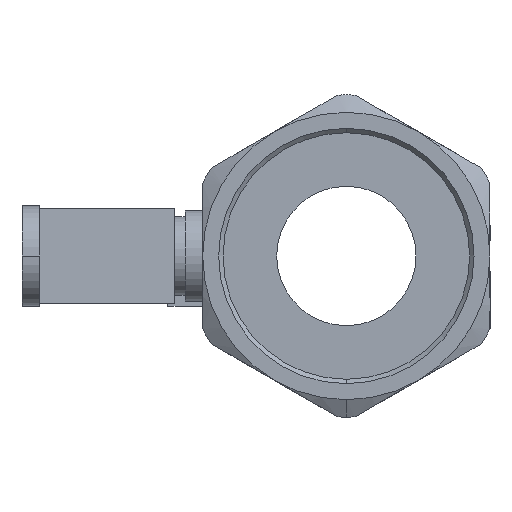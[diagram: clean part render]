
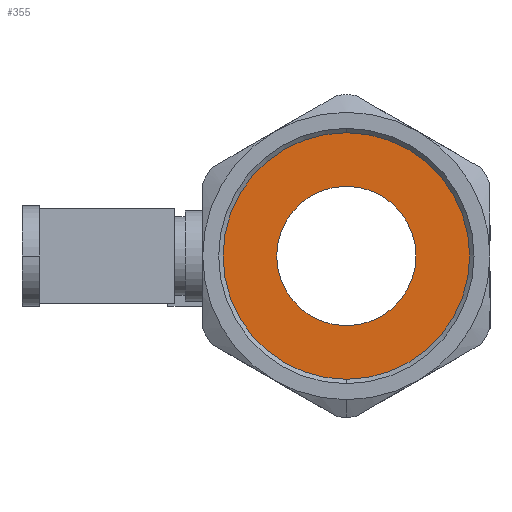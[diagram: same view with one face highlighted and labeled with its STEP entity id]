
A CAD part, left-side view. The second image highlights one B-rep face of the part: STEP entity #355.
In plain terms, the highlighted planar face has unit normal (-1, 0, 0).
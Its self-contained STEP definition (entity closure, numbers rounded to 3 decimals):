
#8 = ORIENTED_EDGE ( 'NONE', *, *, #757, .F. ) ;
#82 = CARTESIAN_POINT ( 'NONE',  ( -25.5, 0., -28.325 ) ) ;
#100 = DIRECTION ( 'NONE',  ( 0., 0., -1. ) ) ;
#142 = CIRCLE ( 'NONE', #3698, 16. ) ;
#320 = EDGE_CURVE ( 'NONE', #2115, #1577, #3545, .T. ) ;
#355 = ADVANCED_FACE ( 'NONE', ( #1757, #1049 ), #1927, .F. ) ;
#379 = CARTESIAN_POINT ( 'NONE',  ( -25.5, 0., 0. ) ) ;
#383 = EDGE_CURVE ( 'NONE', #1577, #2115, #1655, .T. ) ;
#422 = DIRECTION ( 'NONE',  ( -1., 0., 0. ) ) ;
#467 = ORIENTED_EDGE ( 'NONE', *, *, #383, .T. ) ;
#678 = CARTESIAN_POINT ( 'NONE',  ( -25.5, 28.325, 0. ) ) ;
#710 = DIRECTION ( 'NONE',  ( 1., 0., 0. ) ) ;
#733 = VERTEX_POINT ( 'NONE', #1068 ) ;
#757 = EDGE_CURVE ( 'NONE', #1903, #733, #3716, .T. ) ;
#1048 = DIRECTION ( 'NONE',  ( 0., 0., 1. ) ) ;
#1049 = FACE_OUTER_BOUND ( 'NONE', #3467, .T. ) ;
#1068 = CARTESIAN_POINT ( 'NONE',  ( -25.5, 0., -16. ) ) ;
#1411 = DIRECTION ( 'NONE',  ( -1., 0., 0. ) ) ;
#1520 = DIRECTION ( 'NONE',  ( 0., 0., 1. ) ) ;
#1577 = VERTEX_POINT ( 'NONE', #82 ) ;
#1655 = CIRCLE ( 'NONE', #3644, 28.325 ) ;
#1719 = AXIS2_PLACEMENT_3D ( 'NONE', #3692, #1941, #1520 ) ;
#1757 = FACE_BOUND ( 'NONE', #3430, .T. ) ;
#1777 = AXIS2_PLACEMENT_3D ( 'NONE', #2179, #422, #2467 ) ;
#1903 = VERTEX_POINT ( 'NONE', #3152 ) ;
#1927 = PLANE ( 'NONE',  #3251 ) ;
#1941 = DIRECTION ( 'NONE',  ( -1., 0., 0. ) ) ;
#2115 = VERTEX_POINT ( 'NONE', #3614 ) ;
#2179 = CARTESIAN_POINT ( 'NONE',  ( -25.5, 0., 0. ) ) ;
#2467 = DIRECTION ( 'NONE',  ( 0., 0., 1. ) ) ;
#2483 = DIRECTION ( 'NONE',  ( -1., 0., 0. ) ) ;
#2488 = ORIENTED_EDGE ( 'NONE', *, *, #3739, .F. ) ;
#2770 = ORIENTED_EDGE ( 'NONE', *, *, #320, .T. ) ;
#3114 = CARTESIAN_POINT ( 'NONE',  ( -25.5, 0., 0. ) ) ;
#3152 = CARTESIAN_POINT ( 'NONE',  ( -25.5, 0., 16. ) ) ;
#3251 = AXIS2_PLACEMENT_3D ( 'NONE', #678, #710, #100 ) ;
#3414 = DIRECTION ( 'NONE',  ( 0., 0., 1. ) ) ;
#3430 = EDGE_LOOP ( 'NONE', ( #8, #2488 ) ) ;
#3467 = EDGE_LOOP ( 'NONE', ( #2770, #467 ) ) ;
#3545 = CIRCLE ( 'NONE', #1719, 28.325 ) ;
#3614 = CARTESIAN_POINT ( 'NONE',  ( -25.5, 0., 28.325 ) ) ;
#3644 = AXIS2_PLACEMENT_3D ( 'NONE', #379, #2483, #1048 ) ;
#3692 = CARTESIAN_POINT ( 'NONE',  ( -25.5, 0., 0. ) ) ;
#3698 = AXIS2_PLACEMENT_3D ( 'NONE', #3114, #1411, #3414 ) ;
#3716 = CIRCLE ( 'NONE', #1777, 16. ) ;
#3739 = EDGE_CURVE ( 'NONE', #733, #1903, #142, .T. ) ;
